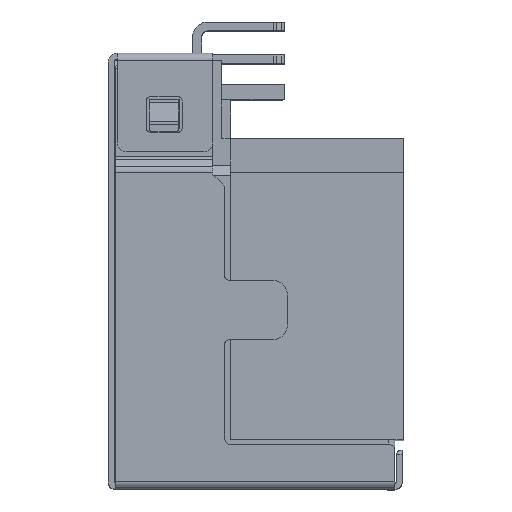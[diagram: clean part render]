
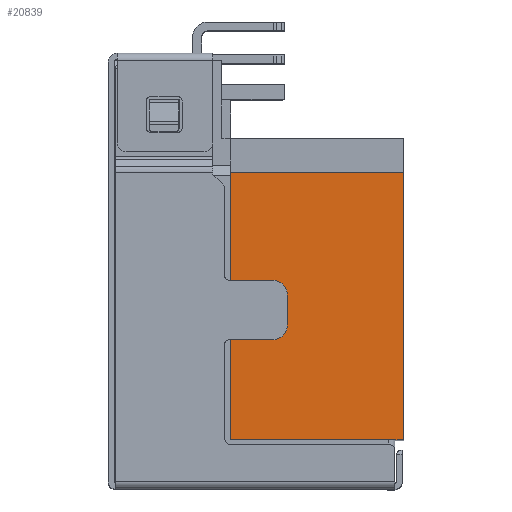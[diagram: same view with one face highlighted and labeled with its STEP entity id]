
A CAD part, top view. The second image highlights one B-rep face of the part: STEP entity #20839.
In plain terms, the highlighted planar face has unit normal (0, 0, 1).
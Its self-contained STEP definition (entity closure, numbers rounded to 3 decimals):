
#1862 = EDGE_CURVE ( 'NONE', #23963, #25595, #28865, .T. ) ;
#2557 = LINE ( 'NONE', #35956, #21813 ) ;
#2768 = CARTESIAN_POINT ( 'NONE',  ( -7.409, 10.35, 0. ) ) ;
#4744 = EDGE_CURVE ( 'NONE', #9224, #35130, #41138, .T. ) ;
#5229 = ORIENTED_EDGE ( 'NONE', *, *, #1862, .F. ) ;
#5844 = LINE ( 'NONE', #2768, #14891 ) ;
#7142 = PLANE ( 'NONE',  #14068 ) ;
#7710 = ORIENTED_EDGE ( 'NONE', *, *, #32529, .T. ) ;
#8537 = CARTESIAN_POINT ( 'NONE',  ( 0., 1.4, 0. ) ) ;
#9224 = VERTEX_POINT ( 'NONE', #8537 ) ;
#9603 = LINE ( 'NONE', #40485, #27607 ) ;
#11015 = DIRECTION ( 'NONE',  ( -1., 0., 0. ) ) ;
#11775 = CARTESIAN_POINT ( 'NONE',  ( -5.8, 1.4, 0. ) ) ;
#13038 = CARTESIAN_POINT ( 'NONE',  ( 0., 1.4, 0. ) ) ;
#14068 = AXIS2_PLACEMENT_3D ( 'NONE', #26288, #33976, #11015 ) ;
#14205 = DIRECTION ( 'NONE',  ( 1., 0., 0. ) ) ;
#14432 = CARTESIAN_POINT ( 'NONE',  ( -5.8, 14.1, 0. ) ) ;
#14891 = VECTOR ( 'NONE', #14205, 1000. ) ;
#16869 = DIRECTION ( 'NONE',  ( -1., 0., 0. ) ) ;
#20839 = ADVANCED_FACE ( 'NONE', ( #36222 ), #7142, .F. ) ;
#21104 = EDGE_CURVE ( 'NONE', #9224, #27514, #2557, .T. ) ;
#21813 = VECTOR ( 'NONE', #39809, 1000. ) ;
#23712 = EDGE_LOOP ( 'NONE', ( #46689, #44309, #5229, #7710, #27361 ) ) ;
#23963 = VERTEX_POINT ( 'NONE', #11775 ) ;
#25595 = VERTEX_POINT ( 'NONE', #29465 ) ;
#26288 = CARTESIAN_POINT ( 'NONE',  ( -5.8, 14.1, 0. ) ) ;
#27361 = ORIENTED_EDGE ( 'NONE', *, *, #4744, .F. ) ;
#27514 = VERTEX_POINT ( 'NONE', #42709 ) ;
#27607 = VECTOR ( 'NONE', #32761, 1000. ) ;
#28865 = LINE ( 'NONE', #14432, #31270 ) ;
#29465 = CARTESIAN_POINT ( 'NONE',  ( -5.8, 10.35, 0. ) ) ;
#29854 = DIRECTION ( 'NONE',  ( 0., 1., 0. ) ) ;
#30961 = VECTOR ( 'NONE', #16869, 1000. ) ;
#31270 = VECTOR ( 'NONE', #29854, 1000. ) ;
#32529 = EDGE_CURVE ( 'NONE', #23963, #35130, #9603, .T. ) ;
#32761 = DIRECTION ( 'NONE',  ( 1., 0., 0. ) ) ;
#33976 = DIRECTION ( 'NONE',  ( 0., 0., -1. ) ) ;
#35065 = CARTESIAN_POINT ( 'NONE',  ( -0.3, 1.4, 0. ) ) ;
#35130 = VERTEX_POINT ( 'NONE', #35065 ) ;
#35956 = CARTESIAN_POINT ( 'NONE',  ( 0., 14.1, 0. ) ) ;
#36222 = FACE_OUTER_BOUND ( 'NONE', #23712, .T. ) ;
#39503 = EDGE_CURVE ( 'NONE', #25595, #27514, #5844, .T. ) ;
#39809 = DIRECTION ( 'NONE',  ( 0., 1., 0. ) ) ;
#40485 = CARTESIAN_POINT ( 'NONE',  ( -5.8, 1.4, 0. ) ) ;
#41138 = LINE ( 'NONE', #13038, #30961 ) ;
#42709 = CARTESIAN_POINT ( 'NONE',  ( 0., 10.35, 0. ) ) ;
#44309 = ORIENTED_EDGE ( 'NONE', *, *, #39503, .F. ) ;
#46689 = ORIENTED_EDGE ( 'NONE', *, *, #21104, .T. ) ;
